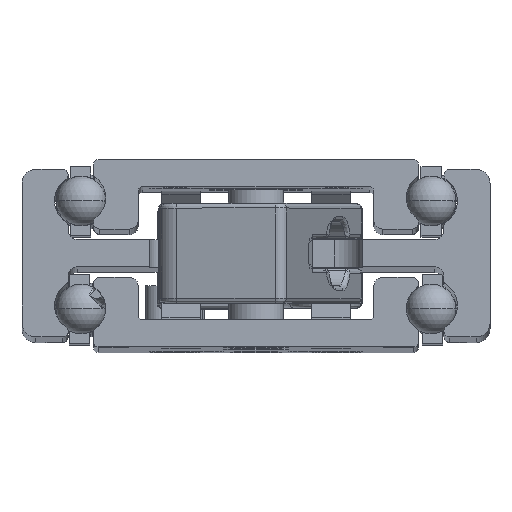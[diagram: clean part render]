
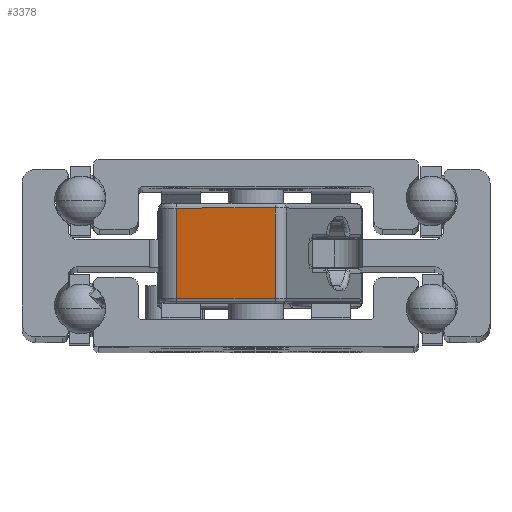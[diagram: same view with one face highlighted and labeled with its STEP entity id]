
A CAD part, top view. The second image highlights one B-rep face of the part: STEP entity #3378.
In plain terms, the highlighted planar face has unit normal (-0.225, 0, 0.974) as drawn and (-1, 0, 0) by its records, which use the part's own axes.
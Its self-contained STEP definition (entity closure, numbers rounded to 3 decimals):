
#286 = CARTESIAN_POINT ( 'NONE',  ( -37., -3., 4.9 ) ) ;
#1047 = ORIENTED_EDGE ( 'NONE', *, *, #19274, .T. ) ;
#1473 = EDGE_CURVE ( 'NONE', #13286, #14253, #1804, .T. ) ;
#1804 = LINE ( 'NONE', #19541, #4533 ) ;
#2148 = LINE ( 'NONE', #10657, #14979 ) ;
#3378 = ADVANCED_FACE ( 'NONE', ( #13768 ), #26694, .F. ) ;
#4533 = VECTOR ( 'NONE', #21230, 1000. ) ;
#7264 = CARTESIAN_POINT ( 'NONE',  ( -37., -4., 5.4 ) ) ;
#7858 = VERTEX_POINT ( 'NONE', #11494 ) ;
#8360 = CARTESIAN_POINT ( 'NONE',  ( -37., -4., -4.9 ) ) ;
#8729 = CARTESIAN_POINT ( 'NONE',  ( -37., 8., 4.9 ) ) ;
#10407 = EDGE_CURVE ( 'NONE', #7858, #13286, #23388, .T. ) ;
#10657 = CARTESIAN_POINT ( 'NONE',  ( -37., 8., 4.9 ) ) ;
#11494 = CARTESIAN_POINT ( 'NONE',  ( -37., 8., -4.9 ) ) ;
#11603 = ORIENTED_EDGE ( 'NONE', *, *, #14185, .T. ) ;
#13286 = VERTEX_POINT ( 'NONE', #24813 ) ;
#13380 = VECTOR ( 'NONE', #14215, 1000. ) ;
#13768 = FACE_OUTER_BOUND ( 'NONE', #22814, .T. ) ;
#14185 = EDGE_CURVE ( 'NONE', #14253, #16395, #2148, .T. ) ;
#14215 = DIRECTION ( 'NONE',  ( 0., 0., -1. ) ) ;
#14253 = VERTEX_POINT ( 'NONE', #286 ) ;
#14979 = VECTOR ( 'NONE', #19321, 1000. ) ;
#15907 = DIRECTION ( 'NONE',  ( 0., 1., 0. ) ) ;
#16395 = VERTEX_POINT ( 'NONE', #8729 ) ;
#16845 = AXIS2_PLACEMENT_3D ( 'NONE', #7264, #26553, #15907 ) ;
#18477 = LINE ( 'NONE', #24852, #13380 ) ;
#19154 = VECTOR ( 'NONE', #25667, 1000. ) ;
#19274 = EDGE_CURVE ( 'NONE', #16395, #7858, #18477, .T. ) ;
#19321 = DIRECTION ( 'NONE',  ( 0., 1., 0. ) ) ;
#19541 = CARTESIAN_POINT ( 'NONE',  ( -37., -3., 5.4 ) ) ;
#21230 = DIRECTION ( 'NONE',  ( 0., 0., 1. ) ) ;
#22041 = ORIENTED_EDGE ( 'NONE', *, *, #10407, .T. ) ;
#22814 = EDGE_LOOP ( 'NONE', ( #1047, #22041, #25093, #11603 ) ) ;
#23388 = LINE ( 'NONE', #8360, #19154 ) ;
#24813 = CARTESIAN_POINT ( 'NONE',  ( -37., -3., -4.9 ) ) ;
#24852 = CARTESIAN_POINT ( 'NONE',  ( -37., 8., 5.4 ) ) ;
#25093 = ORIENTED_EDGE ( 'NONE', *, *, #1473, .T. ) ;
#25667 = DIRECTION ( 'NONE',  ( 0., -1., 0. ) ) ;
#26553 = DIRECTION ( 'NONE',  ( 1., 0., 0. ) ) ;
#26694 = PLANE ( 'NONE',  #16845 ) ;
